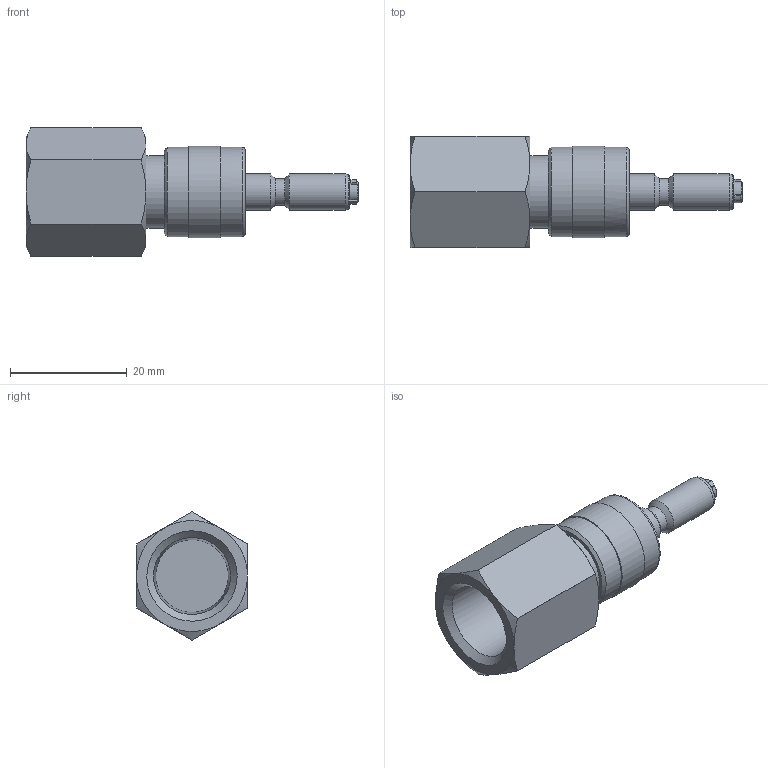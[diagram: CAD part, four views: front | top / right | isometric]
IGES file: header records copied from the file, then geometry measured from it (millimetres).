
Global section: file name: SQC1P-F4N-S0; native system: Autodesk Inventor 2016; preprocessor: unknown; author: 이승민,,11,0; organization: 20170208.004108; date: 20170209.081502; units: millimetre
Bounding box: 57 x 19.05 x 22 mm (x, y, z)
Volume: 7627.6 mm3; surface area: 4312.3 mm2
Topology: 1 solids, 1 shells, 81 faces, 230 edges, 164 vertices
Faces by surface type: bspline 81
